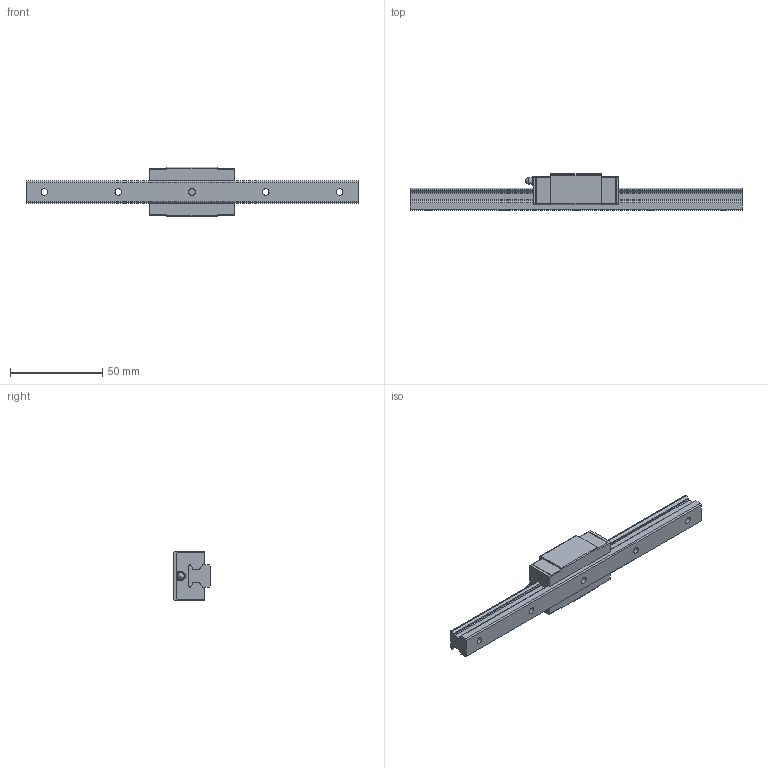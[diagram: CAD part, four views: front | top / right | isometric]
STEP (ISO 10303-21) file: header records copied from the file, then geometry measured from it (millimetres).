
FILE_DESCRIPTION(/* description */ ('STEP AP203'),/* implementation_level */ '2;1');
FILE_NAME(/* name */ 'HRG12RM1UU-180LHM_G10_0_PB107_66-7_0_0_01',/* time_stamp */ '2024-05-23T11:23:06+02:00',/* author */ ('License CC BY-ND 4.0'),/* organization */ ('CADENAS'),/* preprocessor_version */ 'ST-DEVELOPER v19.3',/* originating_system */ 'PARTsolutions',/* authorisation */ ' ');
FILE_SCHEMA (('CONFIG_CONTROL_DESIGN'));
Length unit declared in the file: millimetre
Products named in the file (4): HRG12RM1UU-180LHM_G10_0_PB107_66-7_0_0_01; HRG12RM118010 Rail; HRG12RMUUPB107 1Slider; HSR-YR-PB107_grease_nipple_joint
Assembly tree (3 placements, depth 2):
  HRG12RM1UU-180LHM_G10_0_PB107_66-7_0_0_01
    HRG12RM118010 Rail
    HRG12RMUUPB107 1Slider
    HSR-YR-PB107_grease_nipple_joint
Bounding box: 180 x 20 x 27 mm (x, y, z)
Volume: 36553.6 mm3; surface area: 16423 mm2
Topology: 3 solids, 3 shells, 159 faces, 431 edges, 286 vertices
Faces by surface type: plane 96, cylinder 54, cone 8, sphere 1
Full cylindrical faces by diameter (mm): 3 x3, 3.242 x4, 3.5 x6, 4.5 x1, 6 x5
Entity records: 4912 total; most frequent: CARTESIAN_POINT 836, DIRECTION 831, ORIENTED_EDGE 786, EDGE_CURVE 393, LINE 281, VECTOR 281, VERTEX_POINT 280, AXIS2_PLACEMENT_3D 275
